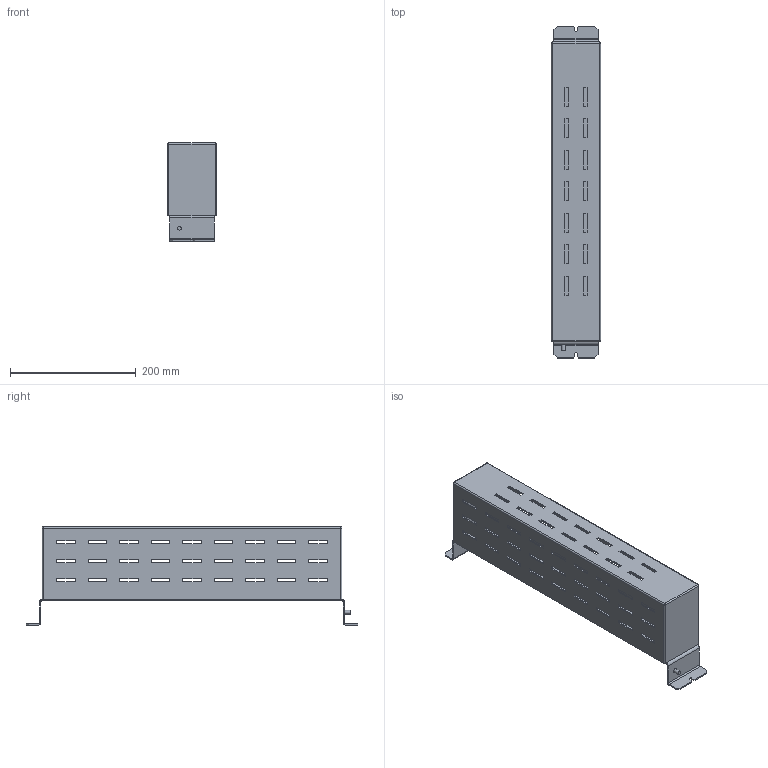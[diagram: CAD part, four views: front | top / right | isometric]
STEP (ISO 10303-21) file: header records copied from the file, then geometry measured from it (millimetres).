
FILE_DESCRIPTION(/* description */ (''),/* implementation_level */ '2;1');
FILE_NAME(/* name */ 'E:\Работа\Веда МК (Данфосс)\!Текущие задачи\2024.08.30 3D модели дросселей\Тормозные резисторы\STP\F1.stp',/* time_stamp */ '2024-09-04T07:24:44+04:00',/* author */ ('Александр (огранич)'),/* organization */ (''),/* preprocessor_version */ 'ST-DEVELOPER v18.1',/* originating_system */ 'Autodesk Inventor 2021',/* authorisation */ '');
FILE_SCHEMA (('AUTOMOTIVE_DESIGN { 1 0 10303 214 3 1 1 }'));
Length unit declared in the file: millimetre
Products named in the file (1): F1
Bounding box: 78 x 527 x 156 mm (x, y, z)
Volume: 385101.8 mm3; surface area: 398878.5 mm2
Topology: 1 solids, 1 shells, 352 faces, 1003 edges, 652 vertices
Faces by surface type: plane 329, cylinder 19, sphere 4
Full cylindrical faces by diameter (mm): 6 x1
Entity records: 11504 total; most frequent: CARTESIAN_POINT 2008, ORIENTED_EDGE 2006, DIRECTION 1749, EDGE_CURVE 1003, LINE 963, VECTOR 963, VERTEX_POINT 652, EDGE_LOOP 489
